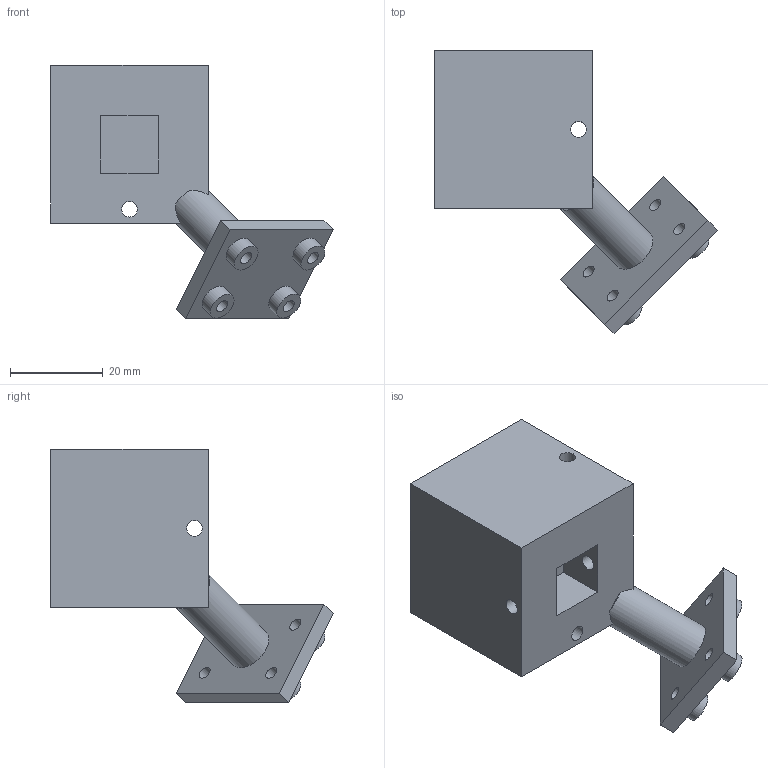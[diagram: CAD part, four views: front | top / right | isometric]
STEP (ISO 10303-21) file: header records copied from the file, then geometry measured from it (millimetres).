
FILE_DESCRIPTION(('Open CASCADE Model'),'2;1');
FILE_NAME('Open CASCADE Shape Model','2026-10-16T03:40:05',('Author'),( 'Open CASCADE'),'Open CASCADE STEP processor 7.9','Open CASCADE 7.9' ,'Unknown');
FILE_SCHEMA(('AUTOMOTIVE_DESIGN { 1 0 10303 214 1 1 1 1 }'));
Length unit declared in the file: millimetre
Products named in the file (1): Open CASCADE STEP translator 7.9 4
Bounding box: 60.94 x 60.94 x 54.6 mm (x, y, z)
Volume: 38116.7 mm3; surface area: 11840.6 mm2
Topology: 1 solids, 1 shells, 49 faces, 117 edges, 78 vertices
Faces by surface type: plane 34, cylinder 15
Full cylindrical faces by diameter (mm): 2.9 x4, 3.4 x6, 6.3 x4, 10 x1
Entity records: 3028 total; most frequent: CARTESIAN_POINT 532, DIRECTION 477, LINE 260, VECTOR 260, ORIENTED_EDGE 234, PCURVE 234, DEFINITIONAL_REPRESENTATION 234, EDGE_CURVE 117
